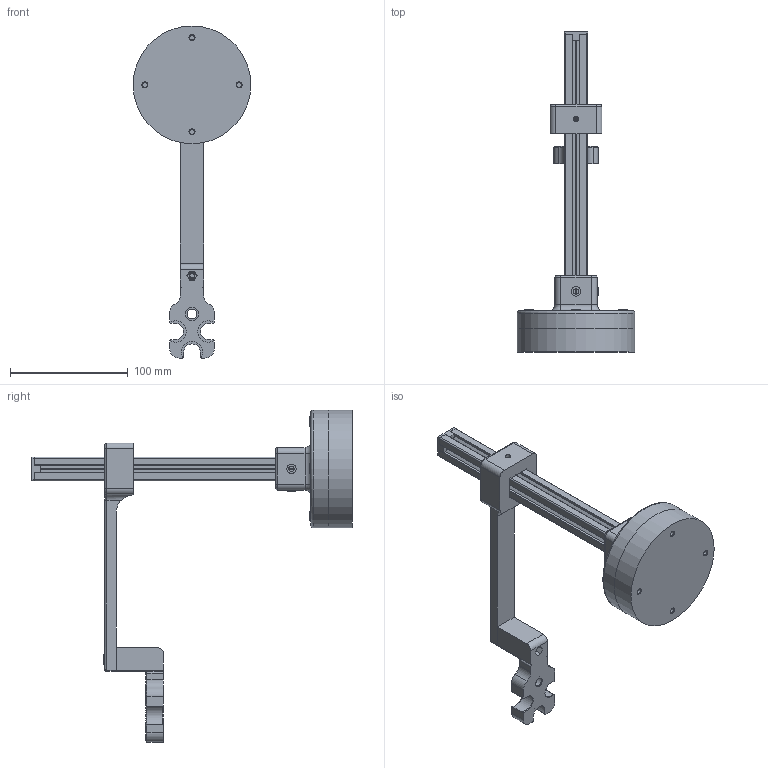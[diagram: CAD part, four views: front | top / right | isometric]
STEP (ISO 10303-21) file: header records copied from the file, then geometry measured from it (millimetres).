
FILE_DESCRIPTION(/* description */ (''),/* implementation_level */ '2;1');
FILE_NAME(/* name */ 'Assieme_chimica_03.stp',/* time_stamp */ '2025-09-22T18:19:59+02:00',/* author */ ('R5800u'),/* organization */ (''),/* preprocessor_version */ 'ST-DEVELOPER v20',/* originating_system */ 'Autodesk Inventor 2025',/* authorisation */ '');
FILE_SCHEMA (('AUTOMOTIVE_DESIGN { 1 0 10303 214 3 1 1 }'));
Length unit declared in the file: millimetre
Products named in the file (13): Assieme_chimica_02; tslot-20x20-3_MIR1; base_petg2; base_ferro; braccio; tappo_2020; porta_sensore; AS 1420 - 1973 - M5 x 20; AS 1420 - 1973 - M5 x 35; AS 1112 - M4  Tipo 5; AS 1420 - 1973 - M4 x 30; Slider T-Nut for 2020 - M4; AS 1420 - 1973 - M4 x 8
Assembly tree (18 placements, depth 2):
  Assieme_chimica_02
    tslot-20x20-3_MIR1
    base_petg2
    base_ferro
    braccio
    tappo_2020
    porta_sensore
    AS 1420 - 1973 - M5 x 20  x4
    AS 1112 - M4  Tipo 5  x3
    AS 1420 - 1973 - M5 x 35
    AS 1420 - 1973 - M4 x 8  x2
    AS 1420 - 1973 - M4 x 30
    Slider T-Nut for 2020 - M4
Bounding box: 100 x 272 x 282.05 mm (x, y, z)
Volume: 444921.4 mm3; surface area: 130323 mm2
Topology: 18 solids, 18 shells, 656 faces, 1676 edges, 1086 vertices
Faces by surface type: plane 368, cylinder 136, cone 73, bspline 48, torus 31
Full cylindrical faces by diameter (mm): 3.242 x3, 3.332 x1, 4 x3, 4.134 x4, 4.2 x1, 4.5 x7, 5 x5, 5.5 x4, 7 x3, 8 x6, 8.5 x5, 9 x4, 11 x1, 100 x2
Entity records: 17680 total; most frequent: CARTESIAN_POINT 3749, ORIENTED_EDGE 2852, DIRECTION 2672, EDGE_CURVE 1426, VERTEX_POINT 932, LINE 930, VECTOR 930, AXIS2_PLACEMENT_3D 871
